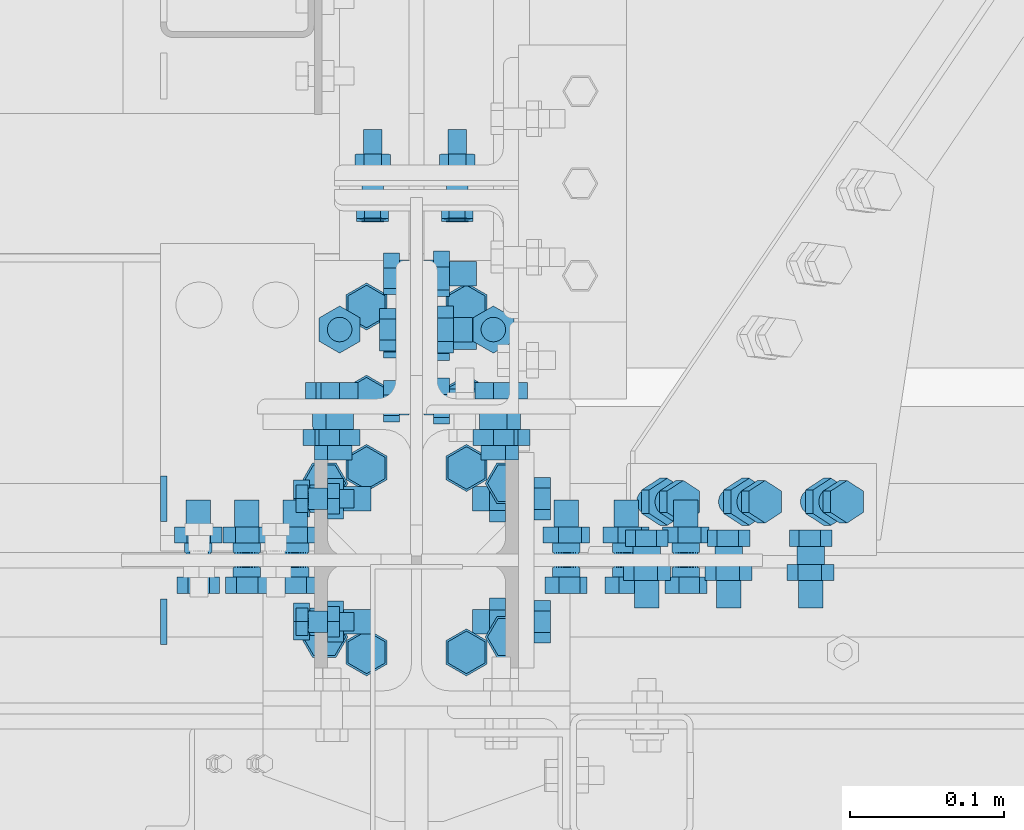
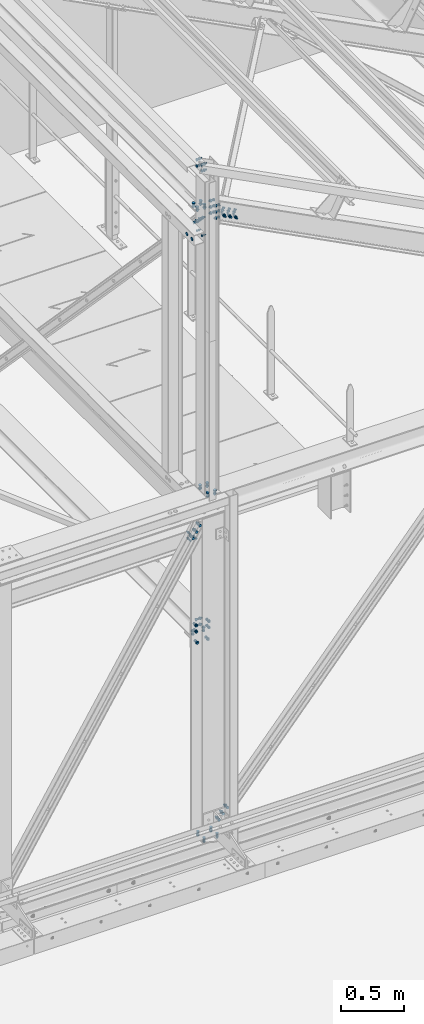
# One storey, part 162 of 362: 18 mechanical fasteners.
"""IFC2X3 building model written with IfcOpenShell, lengths in millimetres."""

from ifc_helpers import new_model, si_unit, frame, origin_with_axes, origin_2d_with_axis, place, context, subcontext, project, spatial, polyline, circle, outline, extrude, source, transform, mapped, material, type_object, element, save


model = new_model("IFC2X3")

# Units and contexts
model_context = context("Model", 3, precision=1e-05, world=origin_with_axes())
body_context = subcontext(model_context, "Body", "Model", "MODEL_VIEW")
ifc_project = project(units=[si_unit("LENGTHUNIT", "METRE", prefix="MILLI"), si_unit("AREAUNIT", "SQUARE_METRE"), si_unit("VOLUMEUNIT", "CUBIC_METRE"), si_unit("MASSUNIT", "GRAM", prefix="KILO"), si_unit("TIMEUNIT", "SECOND"), si_unit("PLANEANGLEUNIT", "RADIAN"), si_unit("SOLIDANGLEUNIT", "STERADIAN"), si_unit("THERMODYNAMICTEMPERATUREUNIT", "DEGREE_CELSIUS"), si_unit("LUMINOUSINTENSITYUNIT", "LUMEN")], contexts=[model_context])

# Site, building, storey
site_placement = place(None, origin_with_axes())
site = spatial("IfcSite", under=ifc_project, at=site_placement, Name="Undefined", CompositionType="ELEMENT")
building_placement = place(site_placement, origin_with_axes())
building = spatial("IfcBuilding", under=site, at=building_placement, Name="Undefined", CompositionType="ELEMENT")
storey_placement = place(building_placement, origin_with_axes())
storey = spatial("IfcBuildingStorey", under=building, at=storey_placement, Name="Undefined", CompositionType="ELEMENT", Elevation=0.0)

# Mechanical fasteners
ifc_material_1 = material(Name="6.8")
mechanical_fastener_type = type_object("IfcMechanicalFastenerType", Name="Bolt assembly")
shared_shape_1 = source(origin_with_axes(), body_context, "Body", "SweptSolid", [
    extrude(circle(Radius=15.0, at=origin_2d_with_axis()), frame((0.0, 0.0, 0.0), z_axis=(0.0, 1.0, 0.0), x_axis=(1.0, 0.0, 0.0)), (0.0, 0.0, 1.0), 4.1),
])
mechanical_fastener_1_placement = place(storey_placement, frame((23303.5000012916, 2.27373675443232e-13, 11070.0), z_axis=(0.0, 1.0, 0.0), x_axis=(0.0, 0.0, 1.0)))
element("IfcMechanicalFastener", 1, at=mechanical_fastener_1_placement, inside=storey, type_object=mechanical_fastener_type, material=ifc_material_1, Name="Bolt assembly", NominalDiameter=30.0, NominalLength=4.0, context=body_context, shape_type="MappedRepresentation", body=[
    mapped(shared_shape_1, transform((0.0, 0.0, 40.0))),
    mapped(shared_shape_1, transform((0.0, 0.0, -40.0))),
])
ifc_material_2 = material(Name="#_SB-8.8-ZINGUE")
shared_shape_2 = source(origin_with_axes(), body_context, "Body", "SweptSolid", [
    extrude(circle(Radius=9.0, at=origin_2d_with_axis()), frame((0.0, 0.1, 0.0), z_axis=(0.0, 1.0, 0.0), x_axis=(1.0, 0.0, 0.0)), (0.0, 0.0, 1.0), 6.0),
    extrude(circle(Radius=9.0, at=origin_2d_with_axis()), frame((0.0, 5.90002706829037, 0.0), z_axis=(0.0, 1.0, 0.0), x_axis=(1.0, 0.0, 0.0)), (0.0, 0.0, 1.0), 6.1),
    extrude(outline(polyline([(13.85640646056, 0.0), (6.92820323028, 12.0000000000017), (-6.92820323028, 12.0000000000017), (-13.85640646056, 0.0), (-6.92820323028, -12.0000000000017), (6.92820323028, -12.0000000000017), (13.85640646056, 0.0)])), frame((0.0, -10.5600019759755, 0.0), z_axis=(0.0, 1.0, 0.0), x_axis=(1.0, 0.0, 0.0)), (0.0, 0.0, 1.0), 10.56),
    extrude(circle(Radius=8.0, at=origin_2d_with_axis()), frame((0.0, 0.0, 0.0), z_axis=(0.0, 1.0, 0.0), x_axis=(1.0, 0.0, 0.0)), (0.0, 0.0, 1.0), 40.0),
    extrude(outline(polyline([(15.3344231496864, 0.0), (7.6672115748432, 13.2800000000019), (-7.6672115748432, 13.2800000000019), (-15.3344231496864, 0.0), (-7.6672115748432, -13.2800000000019), (7.6672115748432, -13.2800000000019), (15.3344231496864, 0.0)])), frame((0.0, 12.0000270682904, 0.0), z_axis=(0.0, 1.0, 0.0), x_axis=(1.0, 0.0, 0.0)), (0.0, 0.0, 1.0), 10.56),
])
mechanical_fastener_2_placement = place(storey_placement, frame((23691.969384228, 38.000062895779, 11177.6208218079), z_axis=(0.887870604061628, 0.0, -0.460093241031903), x_axis=(0.0, -1.0, 0.0)))
element("IfcMechanicalFastener", 2, at=mechanical_fastener_2_placement, inside=storey, type_object=mechanical_fastener_type, material=ifc_material_2, Name="Bolt assembly", NominalDiameter=16.0, NominalLength=40.0, context=body_context, shape_type="MappedRepresentation", body=[
    mapped(shared_shape_2, transform((0.0, 0.0, -60.0))),
    mapped(shared_shape_2, transform((0.0, 0.0, 0.0))),
    mapped(shared_shape_2, transform((0.0, 0.0, 60.0))),
])
ifc_material_3 = material(Name="8.8-SB-ZINGUE")
shared_shape_3 = source(origin_with_axes(), body_context, "Body", "SweptSolid", [
    extrude(circle(Radius=9.0, at=origin_2d_with_axis()), frame((0.0, -10.9000000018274, 0.0), z_axis=(0.0, 1.0, 0.0), x_axis=(1.0, 0.0, 0.0)), (0.0, 0.0, 1.0), 6.0),
    extrude(circle(Radius=9.0, at=origin_2d_with_axis()), frame((0.0, 4.9000000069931, 0.0), z_axis=(0.0, 1.0, 0.0), x_axis=(1.0, 0.0, 0.0)), (0.0, 0.0, 1.0), 6.1),
    extrude(circle(Radius=9.0, at=origin_2d_with_axis()), frame((0.0, -3.99999923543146, 0.0), z_axis=(0.0, 1.0, 0.0), x_axis=(1.0, 0.0, 0.0)), (0.0, 0.0, 1.0), 8.0),
    extrude(outline(polyline([(13.85640646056, 0.0), (6.92820323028, 12.0000000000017), (-6.92820323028, 12.0000000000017), (-13.85640646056, 0.0), (-6.92820323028, -12.0000000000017), (6.92820323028, -12.0000000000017), (13.85640646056, 0.0)])), frame((0.0, -21.5600000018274, 0.0), z_axis=(0.0, 1.0, 0.0), x_axis=(1.0, 0.0, 0.0)), (0.0, 0.0, 1.0), 10.56),
    extrude(circle(Radius=8.0, at=origin_2d_with_axis()), frame((0.0, -11.0000000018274, 0.0), z_axis=(0.0, 1.0, 0.0), x_axis=(1.0, 0.0, 0.0)), (0.0, 0.0, 1.0), 50.0),
    extrude(outline(polyline([(15.3344231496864, 0.0), (7.6672115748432, 13.2800000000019), (-7.6672115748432, 13.2800000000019), (-15.3344231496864, 0.0), (-7.6672115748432, -13.2800000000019), (7.6672115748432, -13.2800000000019), (15.3344231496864, 0.0)])), frame((0.0, 11.0000000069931, 0.0), z_axis=(0.0, 1.0, 0.0), x_axis=(1.0, 0.0, 0.0)), (0.0, 0.0, 1.0), 10.56),
])
for number, where, z_axis, x_axis, name in (
    (3, (23470.0, 103.508116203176, 11127.4310671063), (0.0, -0.723792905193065, -0.690017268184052), (0.0, 0.690017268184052, -0.723792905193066), "Bolt assembly"),
    (4, (23567.3665281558, 0.0, 5304.10485320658), (-0.76069442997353, 0.0, 0.649110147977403), (0.649110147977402, 0.0, 0.760694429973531), "Bolt assembly"),
    (5, (23391.1160716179, 0.0, 8232.41668849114), (0.850550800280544, 0.0, -0.525892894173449), (-0.525892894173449, 0.0, -0.850550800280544), "Bolt assembly"),
):
    element("IfcMechanicalFastener", number, at=place(storey_placement, frame(where, z_axis=z_axis, x_axis=x_axis)), inside=storey, type_object=mechanical_fastener_type, material=ifc_material_3, Name=name, NominalDiameter=16.0, NominalLength=50.0, context=body_context, shape_type="MappedRepresentation", body=[
        mapped(shared_shape_3, transform((0.0, 0.0, 0.0))),
        mapped(shared_shape_3, transform((60.0, 0.0, 0.0))),
        mapped(shared_shape_3, transform((120.0, 0.0, 0.0))),
    ])
shared_shape_4 = source(origin_with_axes(), body_context, "Body", "SweptSolid", [
    extrude(circle(Radius=9.0, at=origin_2d_with_axis()), frame((0.0, -2.89983786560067, 0.0), z_axis=(0.0, 1.0, 0.0), x_axis=(1.0, 0.0, 0.0)), (0.0, 0.0, 1.0), 5.7),
    extrude(circle(Radius=9.0, at=origin_2d_with_axis()), frame((0.0, -8.89990143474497, 0.0), z_axis=(0.0, 1.0, 0.0), x_axis=(1.0, 0.0, 0.0)), (0.0, 0.0, 1.0), 6.0),
    extrude(outline(polyline([(13.85640646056, 0.0), (6.92820323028, 12.0000000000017), (-6.92820323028, 12.0000000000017), (-13.85640646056, 0.0), (-6.92820323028, -12.0000000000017), (6.92820323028, -12.0000000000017), (13.85640646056, 0.0)])), frame((0.0, -19.559901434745, 0.0), z_axis=(0.0, 1.0, 0.0), x_axis=(1.0, 0.0, 0.0)), (0.0, 0.0, 1.0), 10.56),
    extrude(circle(Radius=8.0, at=origin_2d_with_axis()), frame((0.0, -8.99990143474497, 0.0), z_axis=(0.0, 1.0, 0.0), x_axis=(1.0, 0.0, 0.0)), (0.0, 0.0, 1.0), 40.0),
    extrude(outline(polyline([(15.3344231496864, 0.0), (7.6672115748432, 13.2800000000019), (-7.6672115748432, 13.2800000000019), (-15.3344231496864, 0.0), (-7.6672115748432, -13.2800000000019), (7.6672115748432, -13.2800000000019), (15.3344231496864, 0.0)])), frame((0.0, 2.80016203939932, 0.0), z_axis=(0.0, 1.0, 0.0), x_axis=(1.0, 0.0, 0.0)), (0.0, 0.0, 1.0), 10.56),
])
mechanical_fastener_3_placement = place(storey_placement, frame((23673.1055323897, 0.000162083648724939, 11141.2181047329), z_axis=(0.887870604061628, 0.0, -0.460093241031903), x_axis=(0.460093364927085, 0.0, 0.887870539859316)))
element("IfcMechanicalFastener", 6, at=mechanical_fastener_3_placement, inside=storey, type_object=mechanical_fastener_type, material=ifc_material_2, Name="Bolt assembly", NominalDiameter=16.0, NominalLength=40.0, context=body_context, shape_type="MappedRepresentation", body=[
    mapped(shared_shape_4, transform((0.0, 0.0, -60.0))),
    mapped(shared_shape_4, transform((0.0, 0.0, 0.0))),
    mapped(shared_shape_4, transform((0.0, 0.0, 60.0))),
])
shared_shape_5 = source(origin_with_axes(), body_context, "Body", "SweptSolid", [
    extrude(circle(Radius=9.0, at=origin_2d_with_axis()), frame((0.0, -0.091713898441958, 0.0), z_axis=(0.0, 1.0, 0.0), x_axis=(1.0, 0.0, 0.0)), (0.0, 0.0, 1.0), 8.6),
    extrude(circle(Radius=9.0, at=origin_2d_with_axis()), frame((0.0, -9.89171439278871, 0.0), z_axis=(0.0, 1.0, 0.0), x_axis=(1.0, 0.0, 0.0)), (0.0, 0.0, 1.0), 10.0),
    extrude(outline(polyline([(13.85640646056, 0.0), (6.92820323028, 12.0000000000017), (-6.92820323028, 12.0000000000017), (-13.85640646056, 0.0), (-6.92820323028, -12.0000000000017), (6.92820323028, -12.0000000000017), (13.85640646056, 0.0)])), frame((0.0, -20.5517143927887, 0.0), z_axis=(0.0, 1.0, 0.0), x_axis=(1.0, 0.0, 0.0)), (0.0, 0.0, 1.0), 10.56),
    extrude(circle(Radius=8.0, at=origin_2d_with_axis()), frame((0.0, -9.99171439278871, 0.0), z_axis=(0.0, 1.0, 0.0), x_axis=(1.0, 0.0, 0.0)), (0.0, 0.0, 1.0), 40.0),
    extrude(outline(polyline([(15.3344231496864, 0.0), (7.6672115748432, 13.2800000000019), (-7.6672115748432, 13.2800000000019), (-15.3344231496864, 0.0), (-7.6672115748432, -13.2800000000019), (7.6672115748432, -13.2800000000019), (15.3344231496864, 0.0)])), frame((0.0, 8.50828610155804, 0.0), z_axis=(0.0, 1.0, 0.0), x_axis=(1.0, 0.0, 0.0)), (0.0, 0.0, 1.0), 10.56),
])
mechanical_fastener_4_placement = place(storey_placement, frame((23536.5082856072, -40.0, 11258.0026850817), z_axis=(0.0, 0.0, 1.0), x_axis=(0.0, 1.0, 0.0)))
element("IfcMechanicalFastener", 7, at=mechanical_fastener_4_placement, inside=storey, type_object=mechanical_fastener_type, material=ifc_material_3, Name="Bolt assembly", NominalDiameter=16.0, NominalLength=40.0, context=body_context, shape_type="MappedRepresentation", body=[
    mapped(shared_shape_5, transform((0.0, 0.0, -60.0))),
    mapped(shared_shape_5, transform((80.0, 0.0, -60.0))),
    mapped(shared_shape_5, transform((0.0, 0.0, 0.0))),
    mapped(shared_shape_5, transform((80.0, 0.0, 0.0))),
    mapped(shared_shape_5, transform((0.0, 0.0, 60.0))),
    mapped(shared_shape_5, transform((80.0, 0.0, 60.0))),
])
shared_shape_6 = source(origin_with_axes(), body_context, "Body", "SweptSolid", [
    extrude(circle(Radius=7.0, at=origin_2d_with_axis()), frame((0.0, -3.89999843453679, 0.0), z_axis=(0.0, 1.0, 0.0), x_axis=(1.0, 0.0, 0.0)), (0.0, 0.0, 1.0), 4.0),
    extrude(circle(Radius=7.0, at=origin_2d_with_axis()), frame((0.0, -0.100011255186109, 0.0), z_axis=(0.0, 1.0, 0.0), x_axis=(1.0, 0.0, 0.0)), (0.0, 0.0, 1.0), 8.6),
    extrude(outline(polyline([(10.39230484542, 0.0), (5.19615242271, 9.00000000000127), (-5.19615242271, 9.00000000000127), (-10.39230484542, 0.0), (-5.19615242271, -9.00000000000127), (5.19615242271, -9.00000000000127), (10.39230484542, 0.0)])), frame((0.0, -11.9199984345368, 0.0), z_axis=(0.0, 1.0, 0.0), x_axis=(1.0, 0.0, 0.0)), (0.0, 0.0, 1.0), 7.92),
    extrude(circle(Radius=6.0, at=origin_2d_with_axis()), frame((0.0, -3.99999923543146, 0.0), z_axis=(0.0, 1.0, 0.0), x_axis=(1.0, 0.0, 0.0)), (0.0, 0.0, 1.0), 30.0),
    extrude(outline(polyline([(11.5008173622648, 0.0), (5.7504086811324, 9.96000000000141), (-5.7504086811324, 9.96000000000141), (-11.5008173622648, 0.0), (-5.7504086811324, -9.96000000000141), (5.7504086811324, -9.96000000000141), (11.5008173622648, 0.0)])), frame((0.0, 8.49999994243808, 0.0), z_axis=(0.0, 1.0, 0.0), x_axis=(1.0, 0.0, 0.0)), (0.0, 0.0, 1.0), 7.92),
])
mechanical_fastener_5_placement = place(storey_placement, frame((23403.5000012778, 0.0, 11069.9999981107), z_axis=(0.0, 1.0, 0.0), x_axis=(0.0, 0.0, 1.0)))
element("IfcMechanicalFastener", 8, at=mechanical_fastener_5_placement, inside=storey, type_object=mechanical_fastener_type, material=ifc_material_3, Name="Bolt assembly", NominalDiameter=12.0, NominalLength=30.0, context=body_context, shape_type="MappedRepresentation", body=[
    mapped(shared_shape_6, transform((0.0, 0.0, -40.0))),
    mapped(shared_shape_6, transform((0.0, 0.0, 40.0))),
])
shared_shape_7 = source(origin_with_axes(), body_context, "Body", "SweptSolid", [
    extrude(circle(Radius=9.0, at=origin_2d_with_axis()), frame((0.0, -0.100011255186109, 0.0), z_axis=(0.0, 1.0, 0.0), x_axis=(1.0, 0.0, 0.0)), (0.0, 0.0, 1.0), 8.6),
    extrude(circle(Radius=9.0, at=origin_2d_with_axis()), frame((0.0, -2.9, 0.0), z_axis=(0.0, 1.0, 0.0), x_axis=(1.0, 0.0, 0.0)), (0.0, 0.0, 1.0), 3.0),
    extrude(outline(polyline([(13.85640646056, 0.0), (6.92820323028, 12.0000000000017), (-6.92820323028, 12.0000000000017), (-13.85640646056, 0.0), (-6.92820323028, -12.0000000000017), (6.92820323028, -12.0000000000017), (13.85640646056, 0.0)])), frame((0.0, -13.56, 0.0), z_axis=(0.0, 1.0, 0.0), x_axis=(1.0, 0.0, 0.0)), (0.0, 0.0, 1.0), 10.56),
    extrude(circle(Radius=8.0, at=origin_2d_with_axis()), frame((0.0, -2.99999932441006, 0.0), z_axis=(0.0, 1.0, 0.0), x_axis=(1.0, 0.0, 0.0)), (0.0, 0.0, 1.0), 40.0),
    extrude(outline(polyline([(15.3344231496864, 0.0), (7.6672115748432, 13.2800000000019), (-7.6672115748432, 13.2800000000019), (-15.3344231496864, 0.0), (-7.6672115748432, -13.2800000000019), (7.6672115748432, -13.2800000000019), (15.3344231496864, 0.0)])), frame((0.0, 8.49999994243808, 0.0), z_axis=(0.0, 1.0, 0.0), x_axis=(1.0, 0.0, 0.0)), (0.0, 0.0, 1.0), 10.56),
])
mechanical_fastener_6_placement = place(storey_placement, frame((23403.49999895, 0.0, 11701.4098788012), z_axis=(0.0, 1.0, 0.0), x_axis=(0.0, 0.0, 1.0)))
element("IfcMechanicalFastener", 9, at=mechanical_fastener_6_placement, inside=storey, type_object=mechanical_fastener_type, material=ifc_material_3, Name="Bolt assembly", NominalDiameter=16.0, NominalLength=40.0, context=body_context, shape_type="MappedRepresentation", body=[
    mapped(shared_shape_7, transform((0.0, 0.0, -40.0))),
    mapped(shared_shape_7, transform((60.0, 0.0, -40.0))),
    mapped(shared_shape_7, transform((0.0, 0.0, 40.0))),
    mapped(shared_shape_7, transform((60.0, 0.0, 40.0))),
])
shared_shape_8 = source(origin_with_axes(), body_context, "Body", "SweptSolid", [
    extrude(circle(Radius=7.0, at=origin_2d_with_axis()), frame((0.0, -2.65018567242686, 0.0), z_axis=(0.0, 1.0, 0.0), x_axis=(1.0, 0.0, 0.0)), (0.0, 0.0, 1.0), 5.3),
    extrude(circle(Radius=7.0, at=origin_2d_with_axis()), frame((0.0, -12.9001594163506, 0.0), z_axis=(0.0, 1.0, 0.0), x_axis=(1.0, 0.0, 0.0)), (0.0, 0.0, 1.0), 10.0),
    extrude(circle(Radius=7.0, at=origin_2d_with_axis()), frame((0.0, 2.90070287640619, 0.0), z_axis=(0.0, 1.0, 0.0), x_axis=(1.0, 0.0, 0.0)), (0.0, 0.0, 1.0), 10.1),
    extrude(outline(polyline([(10.39230484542, 0.0), (5.19615242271, 9.00000000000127), (-5.19615242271, 9.00000000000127), (-10.39230484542, 0.0), (-5.19615242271, -9.00000000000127), (5.19615242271, -9.00000000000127), (10.39230484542, 0.0)])), frame((0.0, -20.9201594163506, 0.0), z_axis=(0.0, 1.0, 0.0), x_axis=(1.0, 0.0, 0.0)), (0.0, 0.0, 1.0), 7.92),
    extrude(circle(Radius=6.0, at=origin_2d_with_axis()), frame((0.0, -13.0001594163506, 0.0), z_axis=(0.0, 1.0, 0.0), x_axis=(1.0, 0.0, 0.0)), (0.0, 0.0, 1.0), 50.0),
    extrude(outline(polyline([(11.5008173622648, 0.0), (5.7504086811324, 9.96000000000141), (-5.7504086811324, 9.96000000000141), (-11.5008173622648, 0.0), (-5.7504086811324, -9.96000000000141), (5.7504086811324, -9.96000000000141), (11.5008173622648, 0.0)])), frame((0.0, 13.0007028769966, 0.0), z_axis=(0.0, 1.0, 0.0), x_axis=(1.0, 0.0, 0.0)), (0.0, 0.0, 1.0), 7.92),
])
mechanical_fastener_7_placement = place(storey_placement, frame((23441.5000567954, 242.173231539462, 7952.34498711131), z_axis=(7.58071938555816e-11, 0.0314107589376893, 0.999506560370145), x_axis=(0.999999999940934, -1.08559999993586e-05, 5.27999997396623e-07)))
element("IfcMechanicalFastener", 10, at=mechanical_fastener_7_placement, inside=storey, type_object=mechanical_fastener_type, material=ifc_material_3, Name="Bolt assembly", NominalDiameter=12.0, NominalLength=50.0, context=body_context, shape_type="MappedRepresentation", body=[
    mapped(shared_shape_8, transform((0.0, 0.0, -30.0))),
    mapped(shared_shape_8, transform((55.0000000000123, 3.45607986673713e-11, -30.0000000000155))),
    mapped(shared_shape_8, transform((0.0, 0.0, 30.0))),
    mapped(shared_shape_8, transform((54.9999999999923, 3.45607986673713e-11, 29.9999999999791))),
])
shared_shape_9 = source(origin_with_axes(), body_context, "Body", "SweptSolid", [
    extrude(circle(Radius=9.0, at=origin_2d_with_axis()), frame((0.0, -0.0860116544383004, 0.0), z_axis=(0.0, 1.0, 0.0), x_axis=(1.0, 0.0, 0.0)), (0.0, 0.0, 1.0), 10.1),
    extrude(circle(Radius=9.0, at=origin_2d_with_axis()), frame((0.0, -9.88833050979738, 0.0), z_axis=(0.0, 1.0, 0.0), x_axis=(1.0, 0.0, 0.0)), (0.0, 0.0, 1.0), 10.0),
    extrude(outline(polyline([(13.85640646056, 0.0), (6.92820323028, 12.0000000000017), (-6.92820323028, 12.0000000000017), (-13.85640646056, 0.0), (-6.92820323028, -12.0000000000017), (6.92820323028, -12.0000000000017), (13.85640646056, 0.0)])), frame((0.0, -20.5483104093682, 0.0), z_axis=(0.0, 1.0, 0.0), x_axis=(1.0, 0.0, 0.0)), (0.0, 0.0, 1.0), 10.56),
    extrude(circle(Radius=8.0, at=origin_2d_with_axis()), frame((0.0, -9.98833050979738, 0.0), z_axis=(0.0, 1.0, 0.0), x_axis=(1.0, 0.0, 0.0)), (0.0, 0.0, 1.0), 40.0),
    extrude(outline(polyline([(15.3344231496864, 0.0), (7.6672115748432, 13.2800000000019), (-7.6672115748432, 13.2800000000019), (-15.3344231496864, 0.0), (-7.6672115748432, -13.2800000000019), (7.6672115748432, -13.2800000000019), (15.3344231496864, 0.0)])), frame((0.0, 10.0139886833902, 0.0), z_axis=(0.0, 1.0, 0.0), x_axis=(1.0, 0.0, 0.0)), (0.0, 0.0, 1.0), 10.56),
])
mechanical_fastener_8_placement = place(storey_placement, frame((23411.4999985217, 95.0139883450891, 7164.50000054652), z_axis=(0.0, 0.0, -1.0), x_axis=(0.999999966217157, 0.000259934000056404, 0.0)))
element("IfcMechanicalFastener", 11, at=mechanical_fastener_8_placement, inside=storey, type_object=mechanical_fastener_type, material=ifc_material_3, Name="Bolt assembly", NominalDiameter=16.0, NominalLength=40.0, context=body_context, shape_type="MappedRepresentation", body=[
    mapped(shared_shape_9, transform((0.0, 0.0, -30.0))),
    mapped(shared_shape_9, transform((0.0, 0.0, 30.0))),
])
shared_shape_10 = source(origin_with_axes(), body_context, "Body", "SweptSolid", [
    extrude(circle(Radius=9.0, at=origin_2d_with_axis()), frame((0.0, -0.0869447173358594, 0.0), z_axis=(0.0, 1.0, 0.0), x_axis=(1.0, 0.0, 0.0)), (0.0, 0.0, 1.0), 10.1),
    extrude(circle(Radius=9.0, at=origin_2d_with_axis()), frame((0.0, -9.8892433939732, 0.0), z_axis=(0.0, 1.0, 0.0), x_axis=(1.0, 0.0, 0.0)), (0.0, 0.0, 1.0), 10.0),
    extrude(outline(polyline([(13.85640646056, 0.0), (6.92820323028, 12.0000000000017), (-6.92820323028, 12.0000000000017), (-13.85640646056, 0.0), (-6.92820323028, -12.0000000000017), (6.92820323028, -12.0000000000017), (13.85640646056, 0.0)])), frame((0.0, -20.5492433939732, 0.0), z_axis=(0.0, 1.0, 0.0), x_axis=(1.0, 0.0, 0.0)), (0.0, 0.0, 1.0), 10.56),
    extrude(circle(Radius=8.0, at=origin_2d_with_axis()), frame((0.0, -9.9892433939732, 0.0), z_axis=(0.0, 1.0, 0.0), x_axis=(1.0, 0.0, 0.0)), (0.0, 0.0, 1.0), 40.0),
    extrude(outline(polyline([(15.3344231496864, 0.0), (7.6672115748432, 13.2800000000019), (-7.6672115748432, 13.2800000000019), (-15.3344231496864, 0.0), (-7.6672115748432, -13.2800000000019), (7.6672115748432, -13.2800000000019), (15.3344231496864, 0.0)])), frame((0.0, 10.013055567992, 0.0), z_axis=(0.0, 1.0, 0.0), x_axis=(1.0, 0.0, 0.0)), (0.0, 0.0, 1.0), 10.56),
])
mechanical_fastener_9_placement = place(storey_placement, frame((23528.5000013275, 95.0130552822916, 7164.50000054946), z_axis=(0.0, 0.0, 1.0), x_axis=(-0.999999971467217, 0.000238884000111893, 0.0)))
element("IfcMechanicalFastener", 12, at=mechanical_fastener_9_placement, inside=storey, type_object=mechanical_fastener_type, material=ifc_material_3, Name="Bolt assembly", NominalDiameter=16.0, NominalLength=40.0, context=body_context, shape_type="MappedRepresentation", body=[
    mapped(shared_shape_10, transform((0.0, 0.0, -30.0))),
    mapped(shared_shape_10, transform((0.0, 0.0, 30.0))),
])
shared_shape_11 = source(origin_with_axes(), body_context, "Body", "SweptSolid", [
    extrude(circle(Radius=9.0, at=origin_2d_with_axis()), frame((0.0, -2.99999932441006, 0.0), z_axis=(0.0, 1.0, 0.0), x_axis=(1.0, 0.0, 0.0)), (0.0, 0.0, 1.0), 6.0),
    extrude(circle(Radius=9.0, at=origin_2d_with_axis()), frame((0.0, 3.40000111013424, 0.0), z_axis=(0.0, 1.0, 0.0), x_axis=(1.0, 0.0, 0.0)), (0.0, 0.0, 1.0), 10.1),
    extrude(circle(Radius=9.0, at=origin_2d_with_axis()), frame((0.0, -13.4000000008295, 0.0), z_axis=(0.0, 1.0, 0.0), x_axis=(1.0, 0.0, 0.0)), (0.0, 0.0, 1.0), 10.0),
    extrude(outline(polyline([(13.85640646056, 0.0), (6.92820323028, 12.0000000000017), (-6.92820323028, 12.0000000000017), (-13.85640646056, 0.0), (-6.92820323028, -12.0000000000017), (6.92820323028, -12.0000000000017), (13.85640646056, 0.0)])), frame((0.0, -24.0600000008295, 0.0), z_axis=(0.0, 1.0, 0.0), x_axis=(1.0, 0.0, 0.0)), (0.0, 0.0, 1.0), 10.56),
    extrude(circle(Radius=8.0, at=origin_2d_with_axis()), frame((0.0, -13.4999650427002, 0.0), z_axis=(0.0, 1.0, 0.0), x_axis=(1.0, 0.0, 0.0)), (0.0, 0.0, 1.0), 50.0),
    extrude(outline(polyline([(15.3344231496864, 0.0), (7.6672115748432, 13.2800000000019), (-7.6672115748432, 13.2800000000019), (-15.3344231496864, 0.0), (-7.6672115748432, -13.2800000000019), (7.6672115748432, -13.2800000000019), (15.3344231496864, 0.0)])), frame((0.0, 13.4999999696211, 0.0), z_axis=(0.0, 1.0, 0.0), x_axis=(1.0, 0.0, 0.0)), (0.0, 0.0, 1.0), 10.56),
])
mechanical_fastener_10_placement = place(storey_placement, frame((23470.0, 150.002298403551, 7164.49999752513), z_axis=(0.0, 0.0, 1.0), x_axis=(0.0, -1.0, 0.0)))
element("IfcMechanicalFastener", 13, at=mechanical_fastener_10_placement, inside=storey, type_object=mechanical_fastener_type, material=ifc_material_3, Name="Bolt assembly", NominalDiameter=16.0, NominalLength=50.0, context=body_context, shape_type="MappedRepresentation", body=[
    mapped(shared_shape_11, transform((0.0, 0.0, -30.0))),
    mapped(shared_shape_11, transform((0.0, 0.0, 30.0))),
])
shared_shape_12 = source(origin_with_axes(), body_context, "Body", "SweptSolid", [
    extrude(circle(Radius=9.0, at=origin_2d_with_axis()), frame((0.0, -0.0997388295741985, 0.0), z_axis=(0.0, 1.0, 0.0), x_axis=(1.0, 0.0, 0.0)), (0.0, 0.0, 1.0), 10.1),
    extrude(circle(Radius=9.0, at=origin_2d_with_axis()), frame((0.0, -9.90351884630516, 0.0), z_axis=(0.0, 1.0, 0.0), x_axis=(1.0, 0.0, 0.0)), (0.0, 0.0, 1.0), 10.0),
    extrude(outline(polyline([(13.85640646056, 0.0), (6.92820323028, 12.0000000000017), (-6.92820323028, 12.0000000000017), (-13.85640646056, 0.0), (-6.92820323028, -12.0000000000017), (6.92820323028, -12.0000000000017), (13.85640646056, 0.0)])), frame((0.0, -20.5635188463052, 0.0), z_axis=(0.0, 1.0, 0.0), x_axis=(1.0, 0.0, 0.0)), (0.0, 0.0, 1.0), 10.56),
    extrude(circle(Radius=8.0, at=origin_2d_with_axis()), frame((0.0, -10.0035188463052, 0.0), z_axis=(0.0, 1.0, 0.0), x_axis=(1.0, 0.0, 0.0)), (0.0, 0.0, 1.0), 40.0),
    extrude(outline(polyline([(15.3344231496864, 0.0), (7.6672115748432, 13.2800000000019), (-7.6672115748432, 13.2800000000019), (-15.3344231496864, 0.0), (-7.6672115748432, -13.2800000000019), (7.6672115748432, -13.2800000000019), (15.3344231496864, 0.0)])), frame((0.0, 10.0002611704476, 0.0), z_axis=(0.0, 1.0, 0.0), x_axis=(1.0, 0.0, 0.0)), (0.0, 0.0, 1.0), 10.56),
])
mechanical_fastener_11_placement = place(storey_placement, frame((23470.0000002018, 95.0003036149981, 7023.9999999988), z_axis=(1.0, 0.0, 0.0), x_axis=(1.99996231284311e-09, 6.74699999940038e-06, 0.999999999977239)))
element("IfcMechanicalFastener", 14, at=mechanical_fastener_11_placement, inside=storey, type_object=mechanical_fastener_type, material=ifc_material_3, Name="Bolt assembly", NominalDiameter=16.0, NominalLength=40.0, context=body_context, shape_type="MappedRepresentation", body=[
    mapped(shared_shape_12, transform((0.0, 0.0, -50.0))),
    mapped(shared_shape_12, transform((0.0, 0.0, 50.0))),
])
shared_shape_13 = source(origin_with_axes(), body_context, "Body", "SweptSolid", [
    extrude(circle(Radius=9.0, at=origin_2d_with_axis()), frame((0.0, 18.900856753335, 0.0), z_axis=(0.0, 1.0, 0.0), x_axis=(1.0, 0.0, 0.0)), (0.0, 0.0, 1.0), 9.6),
    extrude(circle(Radius=9.0, at=origin_2d_with_axis()), frame((0.0, 9.10085675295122, 0.0), z_axis=(0.0, 1.0, 0.0), x_axis=(1.0, 0.0, 0.0)), (0.0, 0.0, 1.0), 10.0),
    extrude(outline(polyline([(13.85640646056, 0.0), (6.92820323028, 12.0000000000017), (-6.92820323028, 12.0000000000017), (-13.85640646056, 0.0), (-6.92820323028, -12.0000000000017), (6.92820323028, -12.0000000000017), (13.85640646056, 0.0)])), frame((0.0, -1.55914324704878, 0.0), z_axis=(0.0, 1.0, 0.0), x_axis=(1.0, 0.0, 0.0)), (0.0, 0.0, 1.0), 10.56),
    extrude(circle(Radius=8.0, at=origin_2d_with_axis()), frame((0.0, 9.00085675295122, 0.0), z_axis=(0.0, 1.0, 0.0), x_axis=(1.0, 0.0, 0.0)), (0.0, 0.0, 1.0), 40.0),
    extrude(outline(polyline([(15.3344231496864, 0.0), (7.6672115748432, 13.2800000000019), (-7.6672115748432, 13.2800000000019), (-15.3344231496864, 0.0), (-7.6672115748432, -13.2800000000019), (7.6672115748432, -13.2800000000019), (15.3344231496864, 0.0)])), frame((0.0, 28.500856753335, 0.0), z_axis=(0.0, 1.0, 0.0), x_axis=(1.0, 0.0, 0.0)), (0.0, 0.0, 1.0), 10.56),
])
mechanical_fastener_12_placement = place(storey_placement, frame((23469.99999856, 150.003057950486, 7059.99914324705), z_axis=(-1.0, 0.0, 0.0), x_axis=(0.0, -1.0, 0.0)))
element("IfcMechanicalFastener", 15, at=mechanical_fastener_12_placement, inside=storey, type_object=mechanical_fastener_type, material=ifc_material_3, Name="Bolt assembly", NominalDiameter=16.0, NominalLength=40.0, context=body_context, shape_type="MappedRepresentation", body=[
    mapped(shared_shape_13, transform((0.0, 0.0, -50.0))),
    mapped(shared_shape_13, transform((0.0, 0.0, 50.0))),
])
shared_shape_14 = source(origin_with_axes(), body_context, "Body", "SweptSolid", [
    extrude(circle(Radius=9.0, at=origin_2d_with_axis()), frame((0.0, -8.40001950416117, 0.0), z_axis=(0.0, 1.0, 0.0), x_axis=(1.0, 0.0, 0.0)), (0.0, 0.0, 1.0), 8.5),
    extrude(circle(Radius=9.0, at=origin_2d_with_axis()), frame((0.0, -0.100011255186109, 0.0), z_axis=(0.0, 1.0, 0.0), x_axis=(1.0, 0.0, 0.0)), (0.0, 0.0, 1.0), 10.1),
    extrude(outline(polyline([(13.85640646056, 0.0), (6.92820323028, 12.0000000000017), (-6.92820323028, 12.0000000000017), (-13.85640646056, 0.0), (-6.92820323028, -12.0000000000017), (6.92820323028, -12.0000000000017), (13.85640646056, 0.0)])), frame((0.0, -19.0599999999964, 0.0), z_axis=(0.0, 1.0, 0.0), x_axis=(1.0, 0.0, 0.0)), (0.0, 0.0, 1.0), 10.56),
    extrude(circle(Radius=8.0, at=origin_2d_with_axis()), frame((0.0, -8.5, 0.0), z_axis=(0.0, 1.0, 0.0), x_axis=(1.0, 0.0, 0.0)), (0.0, 0.0, 1.0), 40.0),
    extrude(outline(polyline([(15.3344231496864, 0.0), (7.6672115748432, 13.2800000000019), (-7.6672115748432, 13.2800000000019), (-15.3344231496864, 0.0), (-7.6672115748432, -13.2800000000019), (7.6672115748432, -13.2800000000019), (15.3344231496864, 0.0)])), frame((0.0, 10.0000000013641, 0.0), z_axis=(0.0, 1.0, 0.0), x_axis=(1.0, 0.0, 0.0)), (0.0, 0.0, 1.0), 10.56),
])
mechanical_fastener_13_placement = place(storey_placement, frame((23470.0000000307, 105.0, 11236.0), z_axis=(-1.0, 0.0, 0.0), x_axis=(0.0, 1.0, 0.0)))
element("IfcMechanicalFastener", 16, at=mechanical_fastener_13_placement, inside=storey, type_object=mechanical_fastener_type, material=ifc_material_3, Name="Bolt assembly", NominalDiameter=16.0, NominalLength=40.0, context=body_context, shape_type="MappedRepresentation", body=[
    mapped(shared_shape_14, transform((0.0, 0.0, -32.5))),
    mapped(shared_shape_14, transform((60.0, 0.0, -32.5))),
    mapped(shared_shape_14, transform((0.0, 0.0, 32.5))),
    mapped(shared_shape_14, transform((60.0, 0.0, 32.5))),
])
shared_shape_15 = source(origin_with_axes(), body_context, "Body", "SweptSolid", [
    extrude(circle(Radius=9.0, at=origin_2d_with_axis()), frame((0.0, -0.095682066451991, 0.0), z_axis=(0.0, 1.0, 0.0), x_axis=(1.0, 0.0, 0.0)), (0.0, 0.0, 1.0), 10.1),
    extrude(circle(Radius=9.0, at=origin_2d_with_axis()), frame((0.0, -9.9, 0.0), z_axis=(0.0, 1.0, 0.0), x_axis=(1.0, 0.0, 0.0)), (0.0, 0.0, 1.0), 10.0),
    extrude(outline(polyline([(13.85640646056, 0.0), (6.92820323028, 12.0000000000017), (-6.92820323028, 12.0000000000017), (-13.85640646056, 0.0), (-6.92820323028, -12.0000000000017), (6.92820323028, -12.0000000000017), (13.85640646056, 0.0)])), frame((0.0, -20.5600000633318, 0.0), z_axis=(0.0, 1.0, 0.0), x_axis=(1.0, 0.0, 0.0)), (0.0, 0.0, 1.0), 10.56),
    extrude(circle(Radius=8.0, at=origin_2d_with_axis()), frame((0.0, -10.0000010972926, 0.0), z_axis=(0.0, 1.0, 0.0), x_axis=(1.0, 0.0, 0.0)), (0.0, 0.0, 1.0), 40.0),
    extrude(outline(polyline([(15.3344231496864, 0.0), (7.6672115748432, 13.2800000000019), (-7.6672115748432, 13.2800000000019), (-15.3344231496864, 0.0), (-7.6672115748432, -13.2800000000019), (7.6672115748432, -13.2800000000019), (15.3344231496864, 0.0)])), frame((0.0, 10.0042704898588, 0.0), z_axis=(0.0, 1.0, 0.0), x_axis=(1.0, 0.0, 0.0)), (0.0, 0.0, 1.0), 10.56),
])
mechanical_fastener_14_placement = place(storey_placement, frame((23470.0, -59.9999999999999, 8549.9999684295), z_axis=(-1.0, 0.0, 0.0), x_axis=(0.0, 1.0, 0.0)))
element("IfcMechanicalFastener", 17, at=mechanical_fastener_14_placement, inside=storey, type_object=mechanical_fastener_type, material=ifc_material_3, Name="Bolt assembly", NominalDiameter=16.0, NominalLength=40.0, context=body_context, shape_type="MappedRepresentation", body=[
    mapped(shared_shape_15, transform((0.0, 0.0, -32.5))),
    mapped(shared_shape_15, transform((120.0, 0.0, -32.5))),
    mapped(shared_shape_15, transform((0.0, 0.0, 32.5))),
    mapped(shared_shape_15, transform((120.0, 0.0, 32.5))),
])
shared_shape_16 = source(origin_with_axes(), body_context, "Body", "SweptSolid", [
    extrude(circle(Radius=9.0, at=origin_2d_with_axis()), frame((0.0, -0.100537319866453, 0.0), z_axis=(0.0, 1.0, 0.0), x_axis=(1.0, 0.0, 0.0)), (0.0, 0.0, 1.0), 10.1),
    extrude(circle(Radius=9.0, at=origin_2d_with_axis()), frame((0.0, -9.9, 0.0), z_axis=(0.0, 1.0, 0.0), x_axis=(1.0, 0.0, 0.0)), (0.0, 0.0, 1.0), 10.0),
    extrude(outline(polyline([(13.85640646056, 0.0), (6.92820323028, 12.0000000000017), (-6.92820323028, 12.0000000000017), (-13.85640646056, 0.0), (-6.92820323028, -12.0000000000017), (6.92820323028, -12.0000000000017), (13.85640646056, 0.0)])), frame((0.0, -20.5600000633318, 0.0), z_axis=(0.0, 1.0, 0.0), x_axis=(1.0, 0.0, 0.0)), (0.0, 0.0, 1.0), 10.56),
    extrude(circle(Radius=8.0, at=origin_2d_with_axis()), frame((0.0, -10.0000010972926, 0.0), z_axis=(0.0, 1.0, 0.0), x_axis=(1.0, 0.0, 0.0)), (0.0, 0.0, 1.0), 40.0),
    extrude(outline(polyline([(15.3344231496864, 0.0), (7.6672115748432, 13.2800000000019), (-7.6672115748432, 13.2800000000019), (-15.3344231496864, 0.0), (-7.6672115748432, -13.2800000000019), (7.6672115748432, -13.2800000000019), (15.3344231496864, 0.0)])), frame((0.0, 9.9994404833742, 0.0), z_axis=(0.0, 1.0, 0.0), x_axis=(1.0, 0.0, 0.0)), (0.0, 0.0, 1.0), 10.56),
])
mechanical_fastener_15_placement = place(storey_placement, frame((23530.0013899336, 0.0, 5190.00068570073), z_axis=(0.0, -1.0, 0.0), x_axis=(-1.0, 0.0, 0.0)))
element("IfcMechanicalFastener", 18, at=mechanical_fastener_15_placement, inside=storey, type_object=mechanical_fastener_type, material=ifc_material_3, Name="Bolt assembly", NominalDiameter=16.0, NominalLength=40.0, context=body_context, shape_type="MappedRepresentation", body=[
    mapped(shared_shape_16, transform((0.0, 0.0, -50.0))),
    mapped(shared_shape_16, transform((120.0, -4.36557456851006e-10, -50.0))),
    mapped(shared_shape_16, transform((0.0, 0.0, 50.0))),
    mapped(shared_shape_16, transform((120.0, -4.36557456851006e-10, 50.0))),
])

save(model, "model.ifc")
